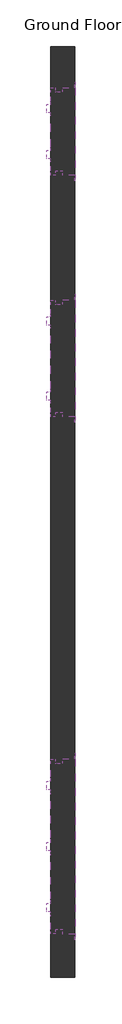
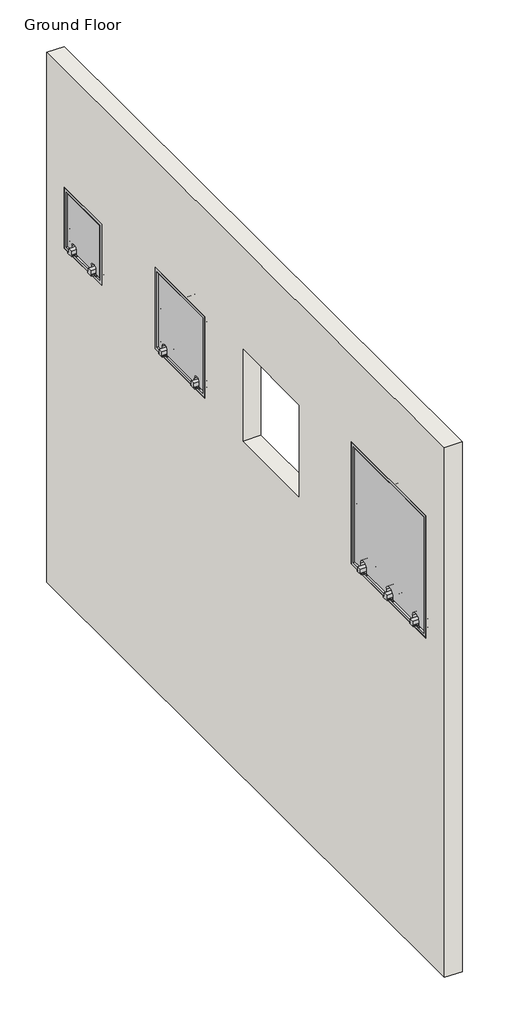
# One storey, incomplete: 3 proxies, 1 wall.
"""IFC4 building model written with IfcOpenShell, lengths in millimetres."""

from ifc_helpers import new_model, si_unit, frame, origin, place, context, project, spatial, polyline, outline, extrude, transform, mapped, element, save
from components import proxy_300_x_300_panel_cf19cad4, proxy_400_x_400_panel_3b8c4bce, proxy_600_x_600_panel_0ffa8e7a, proxy_600_x_600_panel_83bb5f35

model = new_model("IFC4")

# Units and contexts
model_context = context("Model", 3, world=origin())
ifc_project = project(units=[si_unit("LENGTHUNIT", "METRE", prefix="MILLI")], contexts=[model_context])

# Site, building, storey
site = spatial("IfcSite", under=ifc_project)
building = spatial("IfcBuilding", under=site)
storey = spatial("IfcBuildingStorey", under=building, Name="Ground Floor", Elevation=0.0)

# Proxies
placement = place(None, origin())
proxy_300_x_300_panel_shape = proxy_300_x_300_panel_cf19cad4(model_context)
element("IfcBuildingElementProxy", 1, Name="300 x 300 Fyreshield : 300 x 300 Panel", ObjectType="300 x 300 Fyreshield : 300 x 300 Panel", at=placement, inside=storey, context=model_context, shape_type="MappedRepresentation", body=[
    mapped(proxy_300_x_300_panel_shape, transform((-1981.3342359, 8527.1029431, 1725.0), x_axis=(0.0, 1.0, 0.0), y_axis=(0.0, 0.0, 1.0), z_axis=(1.0, 0.0, 0.0))),
])
proxy_400_x_400_panel_shape = proxy_400_x_400_panel_3b8c4bce(model_context)
element("IfcBuildingElementProxy", 2, Name="400 x 400 Fyreshield : 400 x 400 Panel", ObjectType="400 x 400 Fyreshield : 400 x 400 Panel", at=placement, inside=storey, context=model_context, shape_type="MappedRepresentation", body=[
    mapped(proxy_400_x_400_panel_shape, transform((-1981.3342359, 7747.1029431, 1775.0), x_axis=(0.0, 1.0, 0.0), y_axis=(0.0, 0.0, 1.0), z_axis=(1.0, 0.0, 0.0))),
])
proxy_600_x_600_panel_shape = proxy_600_x_600_panel_0ffa8e7a(model_context)
proxy_600_x_600_panel_2_shape = proxy_600_x_600_panel_83bb5f35(model_context)
element("IfcBuildingElementProxy", 3, Name="600 x 600 Fyreshield : 600 x 600 Panel", ObjectType="600 x 600 Fyreshield : 600 x 600 Panel", at=placement, inside=storey, context=model_context, shape_type="MappedRepresentation", body=[
    mapped(proxy_600_x_600_panel_shape, transform((-1981.3342359, 6069.3219665, 1875.0), x_axis=(0.0, 1.0, 0.0), y_axis=(0.0, 0.0, 1.0), z_axis=(1.0, 0.0, 0.0))),
    mapped(proxy_600_x_600_panel_2_shape, transform((-1981.3342359, 6069.3219665, 1875.0), x_axis=(0.0, 1.0, 0.0), y_axis=(0.0, 0.0, 1.0), z_axis=(1.0, 0.0, 0.0))),
])

# Wall
element("IfcWall", 4, ObjectType="Generic 100mm Wall", at=placement, inside=storey, context=model_context, shape_type="SweptSolid", body=[
    extrude(outline(polyline([(8819.3219665, 0.0), (5619.3219665, 0.0), (5619.3219665, 2600.0), (8819.3219665, 2600.0), (8819.3219665, 0.0)]), holes=[polyline([(6369.3219665, 2175.0), (5769.3219665, 2175.0), (5769.3219665, 1575.0), (6369.3219665, 1575.0), (6369.3219665, 2175.0)]), polyline([(7239.3219665, 2100.0), (6789.3219665, 2100.0), (6789.3219665, 1650.0), (7239.3219665, 1650.0), (7239.3219665, 2100.0)]), polyline([(7947.1029431, 2075.0), (7547.1029431, 2075.0), (7547.1029431, 1675.0), (7947.1029431, 1675.0), (7947.1029431, 2075.0)]), polyline([(8677.1029431, 2025.0), (8377.1029431, 2025.0), (8377.1029431, 1725.0), (8677.1029431, 1725.0), (8677.1029431, 2025.0)])]), frame((-2063.3342359, 0.0, 0.0), z_axis=(1.0, 0.0, 0.0), x_axis=(0.0, 1.0, 0.0)), (0.0, 0.0, 1.0), 82.0),
])

save(model, "model.ifc")
